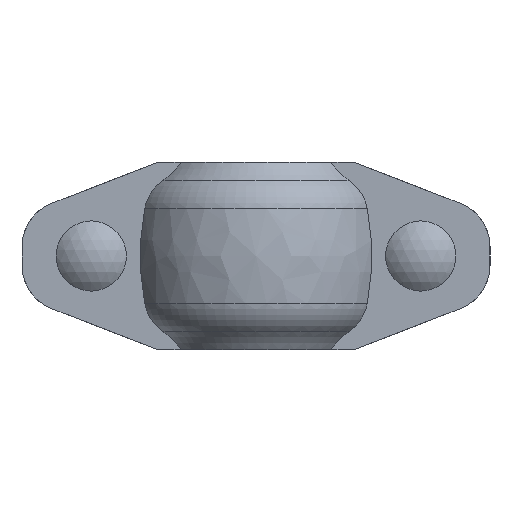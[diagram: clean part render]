
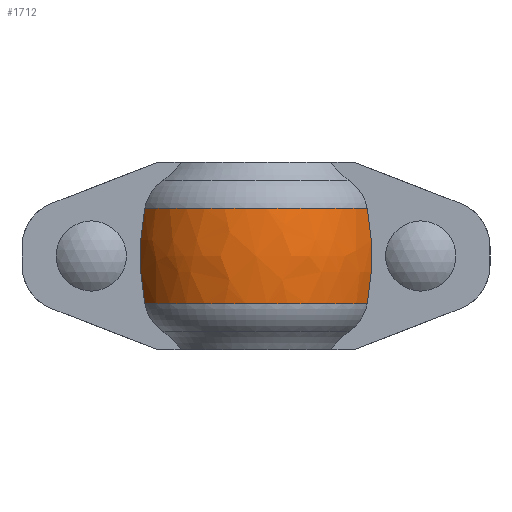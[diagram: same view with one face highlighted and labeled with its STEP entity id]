
A CAD part, front view. The second image highlights one B-rep face of the part: STEP entity #1712.
In plain terms, the highlighted free-form (B-spline) face has degree [2, 2] with [3, 5] control points.
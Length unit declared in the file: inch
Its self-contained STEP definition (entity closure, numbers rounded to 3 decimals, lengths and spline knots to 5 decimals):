
#27=(
BOUNDED_SURFACE()
B_SPLINE_SURFACE(2,2,((#3189,#3190,#3191,#3192,#3193),(#3194,#3195,#3196,
#3197,#3198),(#3199,#3200,#3201,#3202,#3203)),.UNSPECIFIED.,.F.,.F.,.F.)
B_SPLINE_SURFACE_WITH_KNOTS((3,3),(3,2,3),(-0.17083,0.17083),
(0.45155,1.5708,2.69004),.UNSPECIFIED.)
GEOMETRIC_REPRESENTATION_ITEM()
RATIONAL_B_SPLINE_SURFACE(((1.,0.847,1.,0.847,1.),
(0.985,0.835,0.985,0.835,
0.985),(1.,0.847,1.,0.847,1.)))
REPRESENTATION_ITEM('')
SURFACE()
);
#34=B_SPLINE_CURVE_WITH_KNOTS('',3,(#2922,#2923,#2924,#2925,#2926,#2927,
#2928,#2929,#2930,#2931),.UNSPECIFIED.,.F.,.F.,(4,2,2,2,4),(4.87448,
5.36533,6.11283,6.86034,7.35119),
 .UNSPECIFIED.);
#44=B_SPLINE_CURVE_WITH_KNOTS('',3,(#3052,#3053,#3054,#3055,#3056,#3057,
#3058,#3059,#3060,#3061),.UNSPECIFIED.,.F.,.F.,(4,2,2,2,4),(17.10015,
17.591,18.3385,19.08601,19.57686),
 .UNSPECIFIED.);
#216=FACE_OUTER_BOUND('',#313,.T.);
#313=EDGE_LOOP('',(#1517,#1518,#1519,#1520));
#636=CIRCLE('',#1916,1.33133);
#641=CIRCLE('',#1927,1.33133);
#779=VERTEX_POINT('',#2908);
#780=VERTEX_POINT('',#2921);
#794=VERTEX_POINT('',#3038);
#795=VERTEX_POINT('',#3051);
#997=EDGE_CURVE('',#780,#779,#34,.T.);
#1018=EDGE_CURVE('',#795,#794,#44,.T.);
#1037=EDGE_CURVE('',#795,#779,#636,.T.);
#1042=EDGE_CURVE('',#794,#780,#641,.T.);
#1517=ORIENTED_EDGE('',*,*,#997,.T.);
#1518=ORIENTED_EDGE('',*,*,#1037,.F.);
#1519=ORIENTED_EDGE('',*,*,#1018,.T.);
#1520=ORIENTED_EDGE('',*,*,#1042,.T.);
#1712=ADVANCED_FACE('',(#216),#27,.F.);
#1916=AXIS2_PLACEMENT_3D('',#3177,#2368,#2369);
#1927=AXIS2_PLACEMENT_3D('',#3188,#2390,#2391);
#2368=DIRECTION('center_axis',(0.,0.,-1.));
#2369=DIRECTION('ref_axis',(1.,0.,0.));
#2390=DIRECTION('center_axis',(0.,0.,-1.));
#2391=DIRECTION('ref_axis',(1.,0.,0.));
#2908=CARTESIAN_POINT('',(1.18846,0.6,-0.51));
#2921=CARTESIAN_POINT('',(1.18846,0.6,0.51));
#2922=CARTESIAN_POINT('Ctrl Pts',(1.18846,0.6,0.51));
#2923=CARTESIAN_POINT('Ctrl Pts',(1.20171,0.6,0.44145));
#2924=CARTESIAN_POINT('Ctrl Pts',(1.21219,0.6,0.37266));
#2925=CARTESIAN_POINT('Ctrl Pts',(1.23175,0.6,0.2006));
#2926=CARTESIAN_POINT('Ctrl Pts',(1.23718,0.6,0.0981));
#2927=CARTESIAN_POINT('Ctrl Pts',(1.23718,0.6,-0.0981));
#2928=CARTESIAN_POINT('Ctrl Pts',(1.23175,0.6,-0.2006));
#2929=CARTESIAN_POINT('Ctrl Pts',(1.21219,0.6,-0.37266));
#2930=CARTESIAN_POINT('Ctrl Pts',(1.20171,0.6,-0.44145));
#2931=CARTESIAN_POINT('Ctrl Pts',(1.18846,0.6,-0.51));
#3038=CARTESIAN_POINT('',(-1.18846,0.6,0.51));
#3051=CARTESIAN_POINT('',(-1.18846,0.6,-0.51));
#3052=CARTESIAN_POINT('Ctrl Pts',(-1.18846,0.6,-0.51));
#3053=CARTESIAN_POINT('Ctrl Pts',(-1.20171,0.6,-0.44145));
#3054=CARTESIAN_POINT('Ctrl Pts',(-1.21219,0.6,-0.37266));
#3055=CARTESIAN_POINT('Ctrl Pts',(-1.23175,0.6,-0.2006));
#3056=CARTESIAN_POINT('Ctrl Pts',(-1.23718,0.6,-0.0981));
#3057=CARTESIAN_POINT('Ctrl Pts',(-1.23718,0.6,0.0981));
#3058=CARTESIAN_POINT('Ctrl Pts',(-1.23175,0.6,0.2006));
#3059=CARTESIAN_POINT('Ctrl Pts',(-1.21219,0.6,0.37266));
#3060=CARTESIAN_POINT('Ctrl Pts',(-1.20171,0.6,0.44145));
#3061=CARTESIAN_POINT('Ctrl Pts',(-1.18846,0.6,0.51));
#3177=CARTESIAN_POINT('Origin',(0.,0.,-0.51));
#3188=CARTESIAN_POINT('Origin',(0.,0.,0.51));
#3189=CARTESIAN_POINT('Ctrl Pts',(-1.19789,0.58094,0.51));
#3190=CARTESIAN_POINT('Ctrl Pts',(-0.83398,1.33133,0.51));
#3191=CARTESIAN_POINT('Ctrl Pts',(0.,1.33133,0.51));
#3192=CARTESIAN_POINT('Ctrl Pts',(0.83398,1.33133,0.51));
#3193=CARTESIAN_POINT('Ctrl Pts',(1.19789,0.58094,0.51));
#3194=CARTESIAN_POINT('Ctrl Pts',(-1.27706,0.61934,0.));
#3195=CARTESIAN_POINT('Ctrl Pts',(-0.88909,1.41931,0.));
#3196=CARTESIAN_POINT('Ctrl Pts',(0.,1.41931,0.));
#3197=CARTESIAN_POINT('Ctrl Pts',(0.88909,1.41931,0.));
#3198=CARTESIAN_POINT('Ctrl Pts',(1.27706,0.61934,0.));
#3199=CARTESIAN_POINT('Ctrl Pts',(-1.19789,0.58094,-0.51));
#3200=CARTESIAN_POINT('Ctrl Pts',(-0.83398,1.33133,-0.51));
#3201=CARTESIAN_POINT('Ctrl Pts',(0.,1.33133,-0.51));
#3202=CARTESIAN_POINT('Ctrl Pts',(0.83398,1.33133,-0.51));
#3203=CARTESIAN_POINT('Ctrl Pts',(1.19789,0.58094,-0.51));
